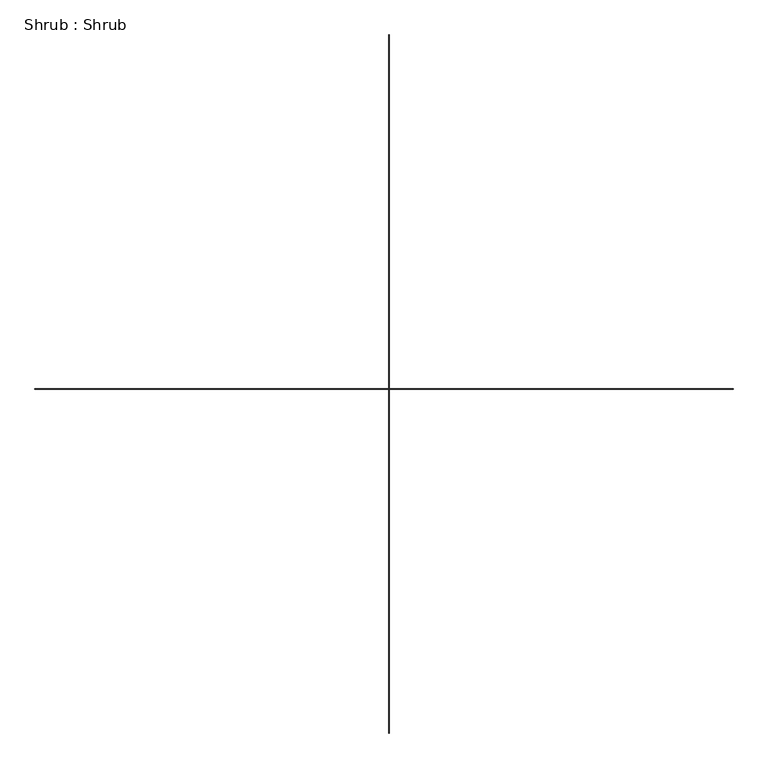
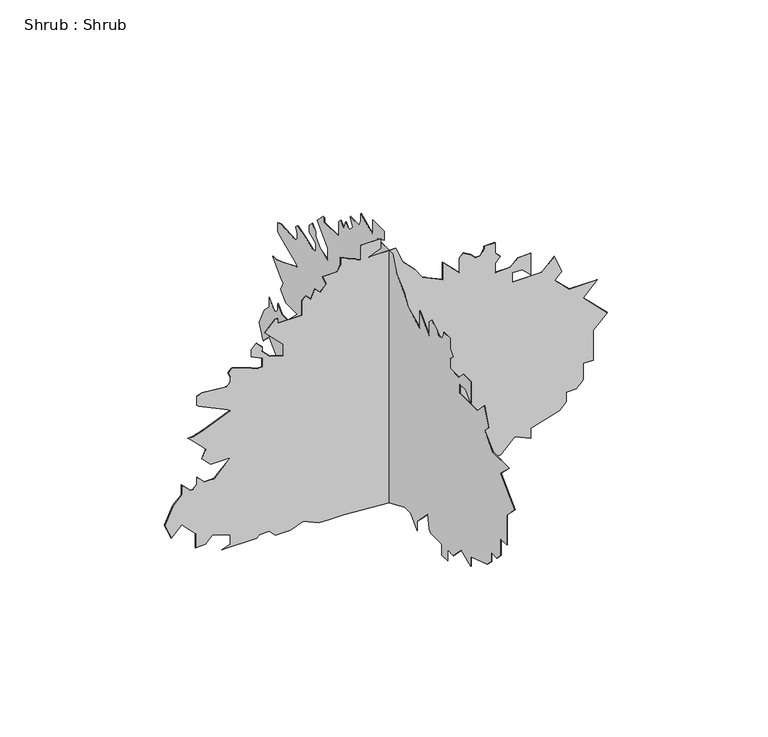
"""IFC4 building model written with IfcOpenShell, lengths in millimetres: geographic element geometry, Shrub : Shrub."""

from ifc_helpers import new_model, si_unit, frame, origin, place, context, project, spatial, polyline, outline, extrude, source, transform, mapped, element, save


def shrub_shrub_abd32c67(model_context):
    return source(origin(), model_context, "Body", "SweptSolid", [
        extrude(outline(polyline([(29.523633, 70.2480967), (29.523633, 95.6480967), (0.0, 125.1717298), (25.4855725, 125.1717298), (43.4460847, 143.132242), (72.2685398, 171.9546971), (36.4938496, 179.2385979), (29.523633, 186.2088145), (29.523633, 234.545531), (0.0, 234.545531), (0.0, 259.945531), (29.523633, 259.945531), (29.523633, 285.345531), (65.4029375, 321.2248355), (47.9654462, 362.7153449), (73.8506069, 362.7153449), (96.7583521, 435.3904796), (114.7188644, 453.3509919), (140.1188644, 453.3509919), (140.1188644, 478.7509919), (158.0793766, 496.7115041), (202.6908834, 496.7115041), (202.6908834, 522.1115041), (232.020277, 522.1115041), (283.1303552, 522.1115041), (319.0513797, 558.0325286), (380.3724042, 496.7115041), (416.2934287, 532.6325286), (416.2934287, 460.7904796), (452.9569264, 424.1269819), (470.9174387, 442.0874941), (517.7495031, 422.4050721), (486.2141697, 390.8697386), (486.2141697, 314.6697386), (511.6141697, 314.6697386), (511.6141697, 340.0697386), (488.9685634, 362.7153449), (514.3685634, 362.7153449), (547.1116737, 362.7153449), (547.1116737, 329.9722346), (527.5646416, 310.4252025), (527.5646416, 270.9260077), (552.9646416, 270.9260077), (566.8612711, 284.8226372), (580.7579006, 270.9260077), (602.2735254, 270.9260077), (608.6235254, 270.9260077), (608.6235254, 243.0603829), (602.2735254, 243.0603829), (585.7757415, 233.5353829), (585.7757415, 220.8353829), (597.9116737, 208.6994507), (608.6235254, 190.1459792), (597.9116737, 179.4341274), (559.8116737, 179.4341274), (573.2820579, 165.9637433), (597.9116737, 141.3341274), (602.4018017, 136.8439994), (589.7018017, 136.8439994), (555.3215456, 136.8439994), (579.4741793, 85.0485094), (608.6235254, 65.6156119), (640.0544219, 34.1847155), (682.5762926, 16.3137672), (682.5762926, -53.5362328), (695.9512334, -21.712096), (721.3512334, -21.712096), (721.3512334, -72.512096), (711.2, -72.512096), (682.5762926, -72.512096), (693.3107964, -95.5323138), (706.7289262, -124.3075861), (687.6789262, -124.3075861), (670.4137629, -132.358464), (670.4137629, -170.458464), (646.9977306, -160.6172529), (630.7398251, -176.8751585), (644.2102093, -190.3455427), (620.9743269, -200.1110409), (634.444711, -213.5814251), (625.4644549, -222.5616812), (597.9116737, -222.5616812), (585.0533024, -222.5616812), (585.0533024, -285.5809964), (597.7533024, -285.5809964), (597.7533024, -291.9309964), (571.2428023, -318.4414965), (550.4137209, -297.6124152), (523.4729526, -270.6716468), (492.0016111, -270.6716468), (502.7725107, -304.8424729), (522.9780869, -325.0480492), (535.6780869, -325.0480492), (550.1571683, -339.5271305), (536.6867841, -352.9975147), (517.9513395, -352.9975147), (504.9182897, -325.0480492), (480.9303113, -325.0480492), (480.9303113, -337.7480492), (493.231825, -367.0180895), (504.6856977, -403.3556569), (495.7054416, -412.335913), (480.9303113, -406.1262711), (468.2303113, -406.1262711), (459.0486114, -415.307971), (464.583001, -478.5663343), (459.0486114, -491.7347794), (435.7840523, -491.7347794), (431.2939242, -487.2446513), (396.0185711, -411.5964125), (391.528443, -407.1062844), (362.00481, -477.3543812), (354.3688949, -501.5794261), (354.3688949, -514.2794261), (318.4478704, -478.3584016), (309.4676143, -469.3781455), (286.0515821, -479.2193565), (263.6009418, -456.7687162), (263.6009418, -406.1262711), (221.9214806, -447.8057322), (221.9214806, -473.2057322), (240.4505278, -491.7347794), (221.9214806, -491.7347794), (211.1793149, -502.4769452), (211.1793149, -508.8269452), (233.6299552, -531.2775855), (207.2789362, -531.2775855), (185.8236797, -552.732842), (139.1670955, -574.4891645), (99.2675512, -557.7203186), (125.7102844, -531.2775855), (89.7892599, -495.356561), (51.6892599, -495.356561), (51.6892599, -469.956561), (69.5815854, -452.0642354), (55.101596, -406.1262711), (29.523633, -406.1262711), (22.5818551, -428.1491562), (22.5818551, -339.2491562), (29.523633, -332.3073783), (29.523633, -306.9073783), (13.4734695, -290.8572148), (13.4734695, -252.7572148), (27.1197299, -220.2875043), (8.3343482, -180.0021232), (8.3343482, -154.6021232), (8.3343482, -116.5021232), (0.0, 0.0), (29.523633, 70.2480967)])), frame((0.0, -0.396875, 0.0), z_axis=(0.0, 1.0, 0.0), x_axis=(0.0, 0.0, 1.0)), (0.0, 0.0, 1.0), 0.79375),
        extrude(outline(polyline([(-70.2480967, 29.523633), (-95.6480967, 29.523633), (-125.1717298, 0.0), (-125.1717298, 25.4855725), (-143.132242, 43.4460847), (-171.9546971, 72.2685398), (-179.2385979, 36.4938496), (-186.2088145, 29.523633), (-234.545531, 29.523633), (-234.545531, 0.0), (-259.945531, 0.0), (-259.945531, 29.523633), (-285.345531, 29.523633), (-321.2248355, 65.4029375), (-362.7153449, 47.9654462), (-362.7153449, 73.8506069), (-435.3904796, 96.7583521), (-453.3509919, 114.7188644), (-453.3509919, 140.1188644), (-478.7509919, 140.1188644), (-496.7115041, 158.0793766), (-496.7115041, 202.6908834), (-522.1115041, 202.6908834), (-522.1115041, 232.020277), (-522.1115041, 283.1303552), (-558.0325286, 319.0513797), (-496.7115041, 380.3724042), (-532.6325286, 416.2934287), (-460.7904796, 416.2934287), (-424.1269819, 452.9569264), (-442.0874941, 470.9174387), (-422.4050721, 517.7495031), (-390.8697386, 486.2141697), (-314.6697386, 486.2141697), (-314.6697386, 511.6141697), (-340.0697386, 511.6141697), (-362.7153449, 488.9685634), (-362.7153449, 514.3685634), (-362.7153449, 547.1116737), (-329.9722346, 547.1116737), (-310.4252025, 527.5646416), (-270.9260077, 527.5646416), (-270.9260077, 552.9646416), (-284.8226372, 566.8612711), (-270.9260077, 580.7579006), (-270.9260077, 602.2735254), (-270.9260077, 608.6235254), (-243.0603829, 608.6235254), (-243.0603829, 602.2735254), (-233.5353829, 585.7757415), (-220.8353829, 585.7757415), (-208.6994507, 597.9116737), (-190.1459792, 608.6235254), (-179.4341274, 597.9116737), (-179.4341274, 559.8116737), (-165.9637433, 573.2820579), (-141.3341274, 597.9116737), (-136.8439994, 602.4018017), (-136.8439994, 589.7018017), (-136.8439994, 555.3215456), (-85.0485094, 579.4741793), (-65.6156119, 608.6235254), (-34.1847155, 640.0544219), (-16.3137672, 682.5762926), (53.5362328, 682.5762926), (21.712096, 695.9512334), (21.712096, 721.3512334), (72.512096, 721.3512334), (72.512096, 711.2), (72.512096, 682.5762926), (95.5323138, 693.3107964), (124.3075861, 706.7289262), (124.3075861, 687.6789262), (132.358464, 670.4137629), (170.458464, 670.4137629), (160.6172529, 646.9977306), (176.8751585, 630.7398251), (190.3455427, 644.2102093), (200.1110409, 620.9743269), (213.5814251, 634.444711), (222.5616812, 625.4644549), (222.5616812, 597.9116737), (222.5616812, 585.0533024), (285.5809964, 585.0533024), (285.5809964, 597.7533024), (291.9309964, 597.7533024), (318.4414965, 571.2428023), (297.6124152, 550.4137209), (270.6716468, 523.4729526), (270.6716468, 492.0016111), (304.8424729, 502.7725107), (325.0480492, 522.9780869), (325.0480492, 535.6780869), (339.5271305, 550.1571683), (352.9975147, 536.6867841), (352.9975147, 517.9513395), (325.0480492, 504.9182897), (325.0480492, 480.9303113), (337.7480492, 480.9303113), (367.0180895, 493.231825), (403.3556569, 504.6856977), (412.335913, 495.7054416), (406.1262711, 480.9303113), (406.1262711, 468.2303113), (415.307971, 459.0486114), (478.5663343, 464.583001), (491.7347794, 459.0486114), (491.7347794, 435.7840523), (487.2446513, 431.2939242), (411.5964125, 396.0185711), (407.1062844, 391.528443), (477.3543812, 362.00481), (501.5794261, 354.3688949), (514.2794261, 354.3688949), (478.3584016, 318.4478704), (469.3781455, 309.4676143), (479.2193565, 286.0515821), (456.7687162, 263.6009418), (406.1262711, 263.6009418), (447.8057322, 221.9214806), (473.2057322, 221.9214806), (491.7347794, 240.4505278), (491.7347794, 221.9214806), (502.4769452, 211.1793149), (508.8269452, 211.1793149), (531.2775855, 233.6299552), (531.2775855, 207.2789362), (552.732842, 185.8236797), (574.4891645, 139.1670955), (557.7203186, 99.2675512), (531.2775855, 125.7102844), (495.356561, 89.7892599), (495.356561, 51.6892599), (469.956561, 51.6892599), (452.0642354, 69.5815854), (406.1262711, 55.101596), (406.1262711, 29.523633), (428.1491562, 22.5818551), (339.2491562, 22.5818551), (332.3073783, 29.523633), (306.9073783, 29.523633), (290.8572148, 13.4734695), (252.7572148, 13.4734695), (220.2875043, 27.1197299), (180.0021232, 8.3343482), (154.6021232, 8.3343482), (116.5021232, 8.3343482), (0.0, 0.0), (-70.2480967, 29.523633)])), frame((-0.396875, 0.0, 0.0), z_axis=(1.0, 0.0, 0.0), x_axis=(0.0, 1.0, 0.0)), (0.0, 0.0, 1.0), 0.79375),
    ])


if __name__ == "__main__":
    model = new_model("IFC4")
    model_context = context("Model", 3, world=origin())
    ifc_project = project(units=[si_unit("LENGTHUNIT", "METRE", prefix="MILLI")], contexts=[model_context])
    site = spatial("IfcSite", under=ifc_project)
    building = spatial("IfcBuilding", under=site)
    placement = place(None, origin())
    shrub_shrub_shape = shrub_shrub_abd32c67(model_context)
    element("IfcGeographicElement", 1, ObjectType="Shrub : Shrub", at=placement, inside=building, context=model_context, shape_type="MappedRepresentation", body=[
        mapped(shrub_shrub_shape, transform((0.0, 0.0, 0.0), x_axis=(1.0, 0.0, 0.0), y_axis=(0.0, 1.0, 0.0), z_axis=(0.0, 0.0, 1.0))),
    ])
    save(model, "model.ifc")
